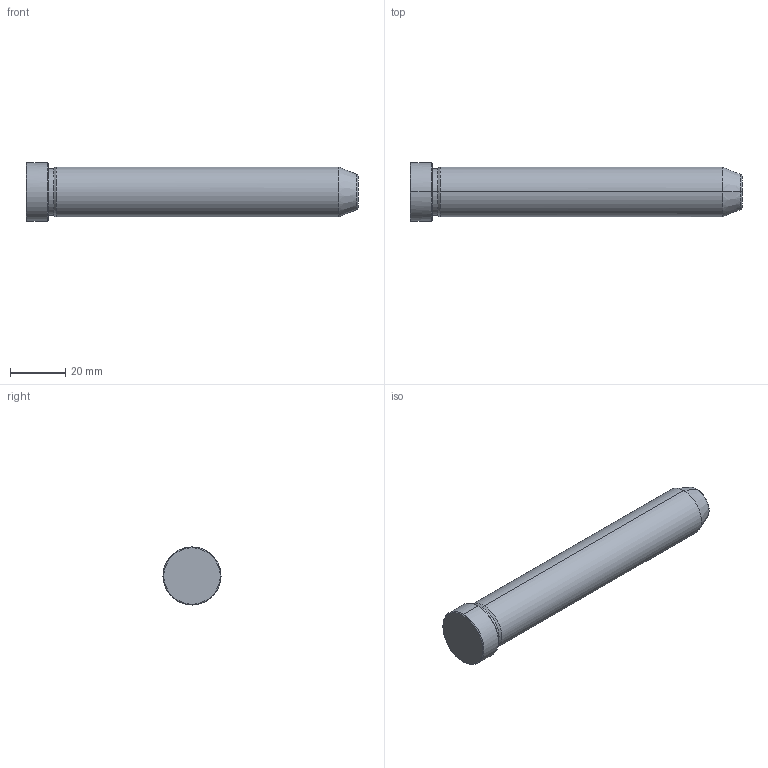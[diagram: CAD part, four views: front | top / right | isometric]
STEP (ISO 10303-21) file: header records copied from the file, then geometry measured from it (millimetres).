
FILE_DESCRIPTION(('CATIA V5 STEP Exchange'),'2;1');
FILE_NAME('C:\Users\Utente\Desktop\IO LAVORO\3D X SITO CF\X SITO\PLASTICA\549\549-18X120.stp','2021-12-11T09:42:02+00:00',('none'),('none'),'CATIA Version 5 Release 20 GA (IN-10)','CATIA V5 STEP AP203','none');
FILE_SCHEMA(('CONFIG_CONTROL_DESIGN'));
Length unit declared in the file: millimetre
Products named in the file (1): 549-18X120
Bounding box: 120 x 21 x 21 mm (x, y, z)
Volume: 30694.3 mm3; surface area: 7380.5 mm2
Topology: 1 solids, 1 shells, 19 faces, 56 edges, 40 vertices
Faces by surface type: cone 8, cylinder 6, plane 3, torus 2
Entity records: 736 total; most frequent: CARTESIAN_POINT 192, ORIENTED_EDGE 112, DIRECTION 86, EDGE_CURVE 56, AXIS2_PLACEMENT_3D 54, VERTEX_POINT 40, CIRCLE 34, EDGE_LOOP 20
